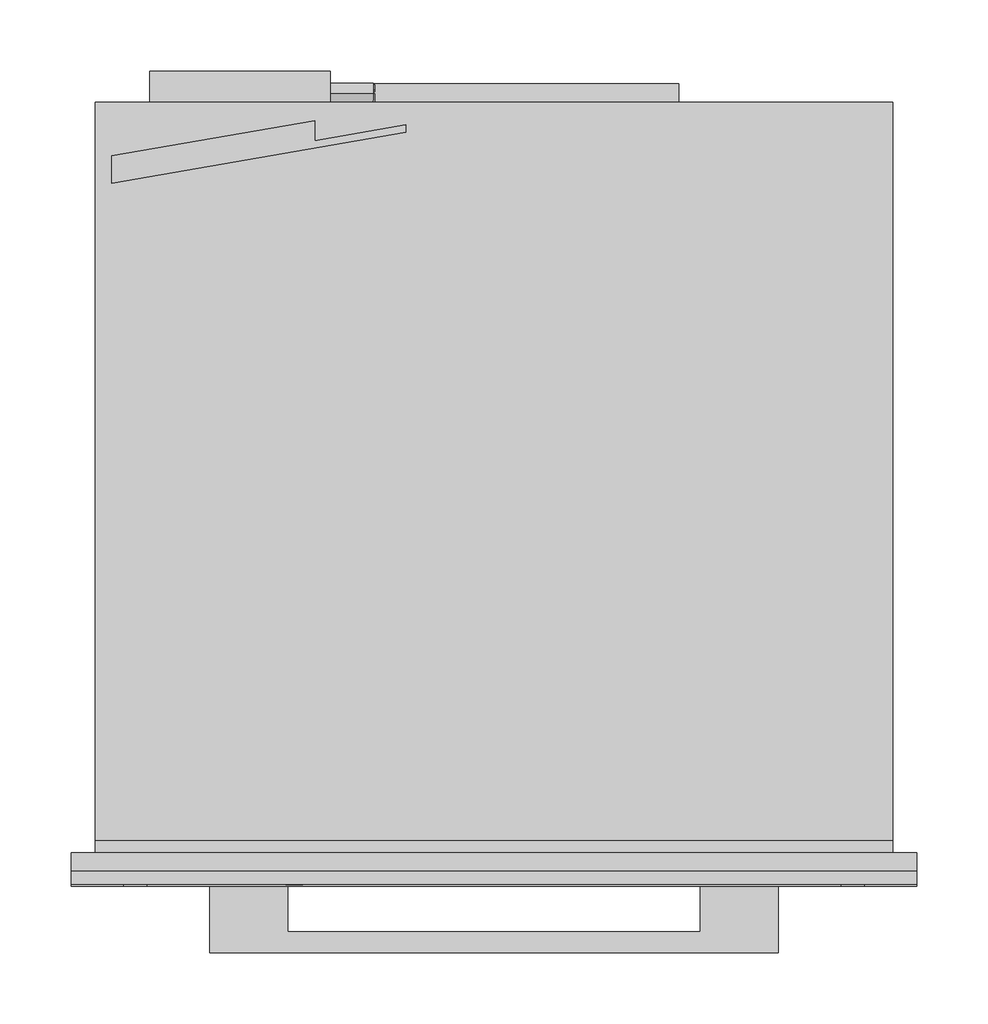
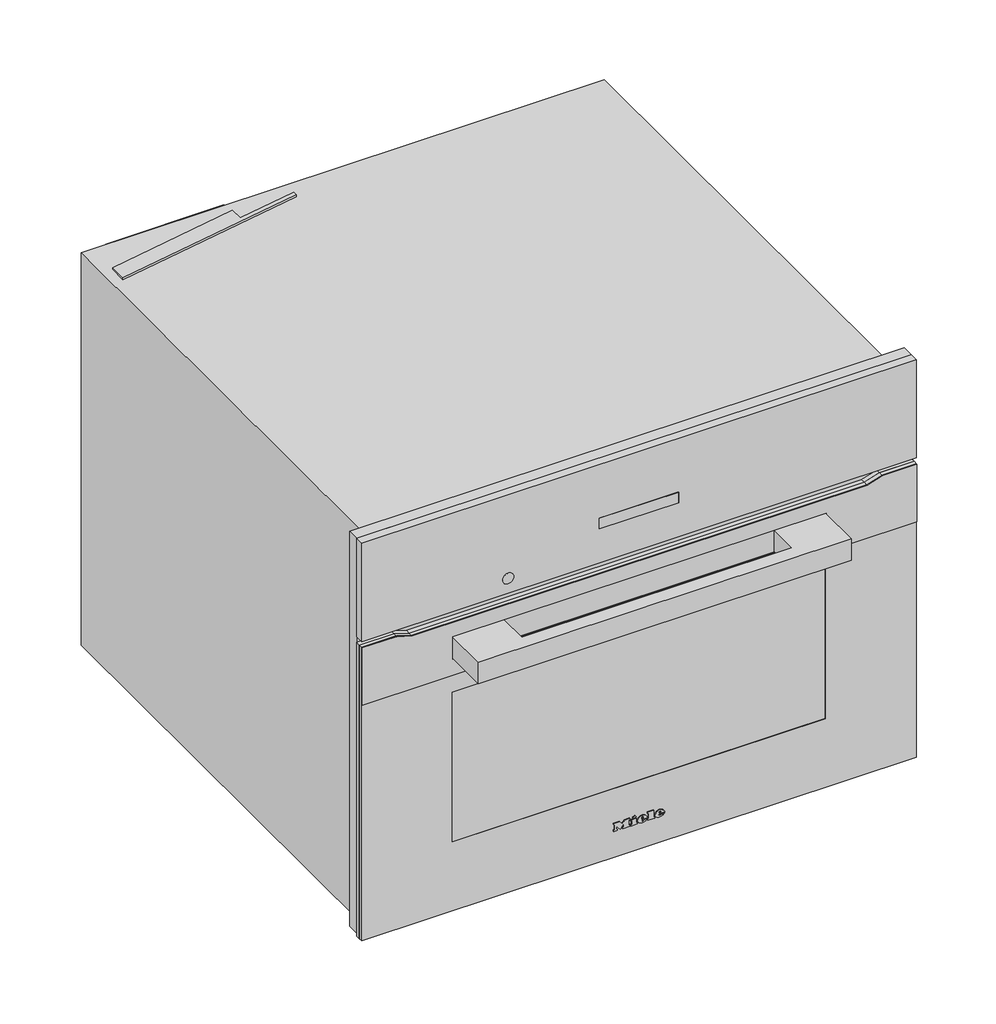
# Not in any storey: 1 proxy.
"""IFC4 building model written with IfcOpenShell, lengths in millimetres."""

import ifcopenshell
import ifcopenshell.guid

model = None  # the IFC model being written
_history = None  # IfcOwnerHistory: only IFC2X3 demands one
_inside = {}  # id of a spatial element -> (the spatial element, [elements in it])
_under = {}  # id of a project, library or spatial element -> (it, [spatial elements below it])
_declared = {}  # id of a project -> (the project, [libraries it declares])
_typed = {}  # id of a type object -> (the type object, [elements of that type])
_made_of = {}  # id of a material, layer set ... -> (it, [elements and type objects made of it])


def new_model(schema):
    """Start an empty IFC model of exactly this schema.

    Asked for "IFC4X3", IfcOpenShell would pick the latest addendum, in which some entities
    have other attributes; the version numbers below select the first issue.
    IFC2X3 requires an IfcOwnerHistory on every rooted entity: one is made here for all.
    """
    global model, _history
    if schema == "IFC4X3":
        model = ifcopenshell.file(schema_version=(4, 3, 0, 0))
    else:
        model = ifcopenshell.file(schema=schema)
    _inside.clear()
    _under.clear()
    _declared.clear()
    _typed.clear()
    _made_of.clear()
    _history = None
    if model.schema == "IFC2X3":
        org = make("IfcOrganization", Name="unknown")
        user = make(
            "IfcPersonAndOrganization",
            ThePerson=make("IfcPerson", FamilyName="unknown"),
            TheOrganization=org,
        )
        app = make(
            "IfcApplication",
            ApplicationDeveloper=org,
            Version="unknown",
            ApplicationFullName="unknown",
            ApplicationIdentifier="unknown",
        )
        _history = make(
            "IfcOwnerHistory",
            OwningUser=user,
            OwningApplication=app,
            ChangeAction="ADDED",
            CreationDate=0,
        )
    return model


def make(cls, **values):
    """One entity of the class cls with the attributes given. An attribute that is None is left unset."""
    return model.create_entity(
        cls, **{name: value for name, value in values.items() if value is not None}
    )


def rooted(cls, **values):
    """An entity with a GlobalId (a new one), such as an element, a storey or a relation."""
    return make(cls, GlobalId=ifcopenshell.guid.new(), OwnerHistory=_history, **values)


def si_unit(unit_type, name, prefix=None):
    """IfcSIUnit, for example si_unit("LENGTHUNIT", "METRE", prefix="MILLI")."""
    return make("IfcSIUnit", UnitType=unit_type, Prefix=prefix, Name=name)


def assignment(units):
    """IfcUnitAssignment: the units of a project."""
    return None if units is None else make("IfcUnitAssignment", Units=units)


def point(xyz):
    """IfcCartesianPoint."""
    return None if xyz is None else make("IfcCartesianPoint", Coordinates=xyz)


def direction(xyz):
    """IfcDirection."""
    return None if xyz is None else make("IfcDirection", DirectionRatios=xyz)


def frame(location, z_axis=None, x_axis=None):
    """IfcAxis2Placement3D, a coordinate frame: its origin and axes. An axis left out is left unset."""
    return make(
        "IfcAxis2Placement3D",
        Location=point(location),
        Axis=direction(z_axis),
        RefDirection=direction(x_axis),
    )


def frame_2d(location, x_axis=None):
    """IfcAxis2Placement2D, a coordinate frame in the plane: its origin and x axis."""
    return make(
        "IfcAxis2Placement2D", Location=point(location), RefDirection=direction(x_axis)
    )


def origin():
    """The frame at (0, 0, 0) with its axes left unset."""
    return frame((0.0, 0.0, 0.0))


def place(relative_to, where):
    """IfcLocalPlacement: puts the frame where relative to a parent placement (None: the world)."""
    return make(
        "IfcLocalPlacement", PlacementRelTo=relative_to, RelativePlacement=where
    )


def context(
    kind, dimensions, precision=None, world=None, true_north=None, identifier=None
):
    """IfcGeometricRepresentationContext, for example the 3D "Model" context."""
    return make(
        "IfcGeometricRepresentationContext",
        ContextIdentifier=identifier,
        ContextType=kind,
        CoordinateSpaceDimension=dimensions,
        Precision=precision,
        WorldCoordinateSystem=world,
        TrueNorth=true_north,
    )


def project(units=None, contexts=None):
    """IfcProject with its units and contexts."""
    return rooted(
        "IfcProject",
        Name="project",
        RepresentationContexts=contexts,
        UnitsInContext=assignment(units),
    )


def spatial(cls, under=None, at=None, **own):
    """A site, building, storey or space (cls), placed at a placement, below another one or the project."""
    s = rooted(cls, ObjectPlacement=at, **own)
    if under is not None:
        _under.setdefault(under.id(), (under, []))[1].append(s)
    return s


def polyline(points):
    """IfcPolyline through the points."""
    return make("IfcPolyline", Points=[point(p) for p in points])


def circle_curve(where, radius):
    """IfcCircle in the frame where."""
    return make("IfcCircle", Position=where, Radius=radius)


def ellipse_curve(where, semi_axis1, semi_axis2):
    """IfcEllipse in the frame where."""
    return make(
        "IfcEllipse", Position=where, SemiAxis1=semi_axis1, SemiAxis2=semi_axis2
    )


def trimmed(basis, trim1, trim2, sense, master):
    """IfcTrimmedCurve: the piece of a basis curve between two trims."""
    return make(
        "IfcTrimmedCurve",
        BasisCurve=basis,
        Trim1=trim1,
        Trim2=trim2,
        SenseAgreement=sense,
        MasterRepresentation=master,
    )


def segment(curve, same_sense, transition):
    """IfcCompositeCurveSegment."""
    return make(
        "IfcCompositeCurveSegment",
        Transition=transition,
        SameSense=same_sense,
        ParentCurve=curve,
    )


def composite_curve(segments, self_intersect=None):
    """IfcCompositeCurve: segments joined end to end."""
    return make("IfcCompositeCurve", Segments=segments, SelfIntersect=self_intersect)


def outline(outer, holes=None, kind="AREA"):
    """IfcArbitraryClosedProfileDef: a profile drawn as a closed curve; with holes, ...WithVoids."""
    if holes is None:
        return make("IfcArbitraryClosedProfileDef", ProfileType=kind, OuterCurve=outer)
    return make(
        "IfcArbitraryProfileDefWithVoids",
        ProfileType=kind,
        OuterCurve=outer,
        InnerCurves=holes,
    )


def extrude(swept, where, along, depth):
    """IfcExtrudedAreaSolid: the profile swept, set in the frame where, extruded along a direction by depth."""
    return make(
        "IfcExtrudedAreaSolid",
        SweptArea=swept,
        Position=where,
        ExtrudedDirection=direction(along),
        Depth=depth,
    )


def faces_of(points, faces, orient=None, outer=None):
    """IfcFace entities. A face is a list of loops; a loop is a list of indices into points, from 0.

    orient and outer hold one flag for each loop. By default every Orientation is true, the
    first loop of a face is its IfcFaceOuterBound and the others are IfcFaceBound.
    """
    made = []
    for i, loops in enumerate(faces):
        bounds = []
        for j, loop in enumerate(loops):
            is_outer = j == 0 if outer is None else outer[i][j]
            bounds.append(
                make(
                    "IfcFaceOuterBound" if is_outer else "IfcFaceBound",
                    Bound=make("IfcPolyLoop", Polygon=[points[k] for k in loop]),
                    Orientation=True if orient is None else orient[i][j],
                )
            )
        made.append(make("IfcFace", Bounds=bounds))
    return made


def faceted_brep(points, faces, orient=None, outer=None, voids=None):
    """IfcFacetedBrep: a solid bounded by flat faces; with voids (closed shells), ...WithVoids."""
    shared = [point(p) for p in points]
    hull = make("IfcClosedShell", CfsFaces=faces_of(shared, faces, orient, outer))
    if voids is None:
        return make("IfcFacetedBrep", Outer=hull)
    return make(
        "IfcFacetedBrepWithVoids",
        Outer=hull,
        Voids=[
            make(cls, CfsFaces=faces_of(shared, fs, o, b)) for cls, fs, o, b in voids
        ],
    )


def shape(context_of_items, identifier, shape_type, items):
    """IfcShapeRepresentation: the items that make up one representation, for example the "Body"."""
    return make(
        "IfcShapeRepresentation",
        ContextOfItems=context_of_items,
        RepresentationIdentifier=identifier,
        RepresentationType=shape_type,
        Items=items,
    )


def source(mapping_origin, context_of_items, identifier, shape_type, items):
    """IfcRepresentationMap: a shape defined once, which mapped items show again and again."""
    return make(
        "IfcRepresentationMap",
        MappingOrigin=mapping_origin,
        MappedRepresentation=shape(context_of_items, identifier, shape_type, items),
    )


def transform(
    local_origin,
    x_axis=None,
    y_axis=None,
    z_axis=None,
    scale=None,
    scale2=None,
    scale3=None,
    uniform=True,
):
    """IfcCartesianTransformationOperator3D, or its non-uniform kind. x_axis, y_axis, z_axis: its Axis1, 2, 3."""
    if uniform:
        return make(
            "IfcCartesianTransformationOperator3D",
            Axis1=direction(x_axis),
            Axis2=direction(y_axis),
            LocalOrigin=point(local_origin),
            Scale=scale,
            Axis3=direction(z_axis),
        )
    return make(
        "IfcCartesianTransformationOperator3DnonUniform",
        Axis1=direction(x_axis),
        Axis2=direction(y_axis),
        LocalOrigin=point(local_origin),
        Scale=scale,
        Axis3=direction(z_axis),
        Scale2=scale2,
        Scale3=scale3,
    )


def mapped(mapping_source, mapping_target):
    """IfcMappedItem: shows the shape of a source again, moved by a transform."""
    return make(
        "IfcMappedItem", MappingSource=mapping_source, MappingTarget=mapping_target
    )


def made_of(thing, what):
    """Note that an element or type object is made of a material, layer set ...; save() writes the relation."""
    if what is not None:
        _made_of.setdefault(what.id(), (what, []))[1].append(thing)
    return thing


def element(
    cls,
    number,
    at=None,
    inside=None,
    cuts=None,
    type_object=None,
    material=None,
    context=None,
    identifier="Body",
    shape_type=None,
    held_by="IfcProductDefinitionShape",
    body=None,
    shapes=None,
    **own,
):
    """One element of the class cls, such as IfcWall. Its Tag is "e" and its number.

    at: its placement. inside: the storey or other place that contains it. cuts: it is an
    opening in that element (IfcRelVoidsElement). A single representation is given by context,
    identifier, shape_type and body (its items); several are given by shapes. held_by: the class
    of the entity that holds the representations. save() writes the other relations.
    """
    e = rooted(cls, Tag="e%d" % number, ObjectPlacement=at, **own)
    if body is not None:
        shapes = [shape(context, identifier, shape_type, body)]
    if shapes is not None:
        e.Representation = make(held_by, Representations=shapes)
    if inside is not None:
        _inside.setdefault(inside.id(), (inside, []))[1].append(e)
    if cuts is not None:
        rooted(
            "IfcRelVoidsElement", RelatingBuildingElement=cuts, RelatedOpeningElement=e
        )
    if type_object is not None:
        _typed.setdefault(type_object.id(), (type_object, []))[1].append(e)
    return made_of(e, material)


def aggregate(whole, parts):
    """IfcRelAggregates: a whole, such as a stair, and the parts it consists of."""
    return rooted("IfcRelAggregates", RelatingObject=whole, RelatedObjects=parts)


def save(model, path):
    """Write the relations noted so far, then the file.

    IfcRelAggregates (storeys below a building ...), IfcRelContainedInSpatialStructure (elements
    in a storey), IfcRelDefinesByType, IfcRelAssociatesMaterial and IfcRelDeclares: one each for
    every whole, place, type object, material and project.
    """
    for whole, parts in _under.values():
        aggregate(whole, parts)
    for where, things in _inside.values():
        rooted(
            "IfcRelContainedInSpatialStructure",
            RelatedElements=things,
            RelatingStructure=where,
        )
    for kind, things in _typed.values():
        rooted("IfcRelDefinesByType", RelatedObjects=things, RelatingType=kind)
    for what, things in _made_of.values():
        rooted("IfcRelAssociatesMaterial", RelatedObjects=things, RelatingMaterial=what)
    for by, libraries in _declared.values():
        rooted("IfcRelDeclares", RelatingContext=by, RelatedDefinitions=libraries)
    model.write(path)


def plane_surface(at):
    """IfcPlane: the flat surface through the origin of the frame at, square to its z axis."""
    return make("IfcPlane", Position=at)


def cylinder_surface(at, radius):
    """IfcCylindricalSurface: all points at the distance radius from the z axis of the frame at."""
    return make("IfcCylindricalSurface", Position=at, Radius=radius)


def revolved_surface(curve, axis_point, axis_direction):
    """IfcSurfaceOfRevolution: the curve turned about the line through axis_point along axis_direction."""
    return make(
        "IfcSurfaceOfRevolution",
        SweptCurve=make("IfcArbitraryOpenProfileDef", ProfileType="CURVE", Curve=curve),
        AxisPosition=make("IfcAxis1Placement", Location=point(axis_point), Axis=direction(axis_direction)),
    )


def extruded_surface(curve, direction_of_extrusion, depth):
    """IfcSurfaceOfLinearExtrusion: the curve pushed along a direction by depth."""
    return make(
        "IfcSurfaceOfLinearExtrusion",
        SweptCurve=make("IfcArbitraryOpenProfileDef", ProfileType="CURVE", Curve=curve),
        ExtrudedDirection=direction(direction_of_extrusion),
        Depth=depth,
    )


def advanced_brep(points, edges, surfaces, faces):
    """IfcAdvancedBrep: a solid bounded by faces that lie on surfaces and meet in shared edges.

    An edge is (start, end): straight between two places in points (the first is 0);
    or (start, end, curve); or (start, end, curve, False) where it runs against its curve.
    A face is (place in surfaces, loops), or (place, loops, False) where it looks against
    its surface's normal. A loop lists edges by number (the first is 1), with a minus sign
    where the edge is run from its end to its start. The first loop is the outer one.
    """
    corners = [point(p) for p in points]
    vertices = [make("IfcVertexPoint", VertexGeometry=c) for c in corners]
    made = []
    for start, end, *more in edges:
        made.append(
            make(
                "IfcEdgeCurve",
                EdgeStart=vertices[start],
                EdgeEnd=vertices[end],
                EdgeGeometry=more[0] if more else make("IfcPolyline", Points=[corners[start], corners[end]]),
                SameSense=more[1] if len(more) > 1 else True,
            )
        )
    hull = []
    for where, loops, *sense in faces:
        bounds = []
        for j, loop in enumerate(loops):
            ring = [make("IfcOrientedEdge", EdgeElement=made[abs(k) - 1], Orientation=k > 0) for k in loop]
            bounds.append(
                make(
                    "IfcFaceOuterBound" if j == 0 else "IfcFaceBound",
                    Bound=make("IfcEdgeLoop", EdgeList=ring),
                    Orientation=True,
                )
            )
        hull.append(make("IfcAdvancedFace", Bounds=bounds, FaceSurface=surfaces[where], SameSense=sense[0] if sense else True))
    return make("IfcAdvancedBrep", Outer=make("IfcClosedShell", CfsFaces=hull))


def specialty_equipment_5c6efe2b(model_context):
    return source(origin(), model_context, "Body", "SolidModel", [
        advanced_brep(
        [(21.28, -23.0, 36.133), (21.28, -23.0, 37.042), (27.301, -23.0, 37.042), (16.825, -23.0, 37.042), (19.3, -23.0, 34.0), (27.148, -23.0, 36.133), (24.43, -23.0, 36.133), (22.288, -23.0, 35.125), (21.28, -23.0, 38.194), (21.28, -23.0, 39.175), (22.819, -23.0, 39.175), (22.819, -23.0, 38.194), (21.28, -22.0, 36.133), (22.288, -22.0, 35.125), (24.43, -22.0, 36.133), (27.148, -22.0, 36.133), (19.3, -22.0, 34.0), (16.825, -22.0, 37.042), (27.301, -22.0, 37.042), (21.28, -22.0, 37.042), (21.28, -22.0, 38.194), (22.819, -22.0, 38.194), (22.819, -22.0, 39.175), (21.28, -22.0, 39.175)],
        [
            (0, 1),
            (1, 2),
            (2, 3, ellipse_curve(frame((22.063, -23.0, 37.042), z_axis=(0.0, -1.0, 0.0), x_axis=(-1.0, 0.0, 0.0)), 5.238, 4.329)),
            (3, 4, circle_curve(frame((20.3080491, -23.0, 37.348), z_axis=(0.0, -1.0, 0.0), x_axis=(0.0, 0.0, -1.0)), 3.4964649)),
            (4, 5, circle_curve(frame((21.9581428, -23.0, 39.724), z_axis=(0.0, -1.0, 0.0), x_axis=(0.0, 0.0, -1.0)), 6.3110933)),
            (5, 6),
            (6, 7, circle_curve(frame((22.7279412, -23.0, 36.97), z_axis=(0.0, 1.0, 0.0), x_axis=(0.0, 0.0, -1.0)), 1.896727)),
            (7, 0, circle_curve(frame((22.288, -23.0, 36.133), z_axis=(0.0, 1.0, 0.0), x_axis=(0.0, 0.0, -1.0)), 1.008)),
            (8, 9),
            (9, 10, circle_curve(frame((22.0495, -23.0, 39.175), z_axis=(0.0, 1.0, 0.0), x_axis=(0.0, 0.0, -1.0)), 0.7695)),
            (10, 11),
            (11, 8),
            (12, 13, circle_curve(frame((22.288, -22.0, 36.133), z_axis=(0.0, -1.0, 0.0), x_axis=(0.0, 0.0, -1.0)), 1.008)),
            (13, 14, circle_curve(frame((22.7279412, -22.0, 36.97), z_axis=(0.0, -1.0, 0.0), x_axis=(0.0, 0.0, -1.0)), 1.896727)),
            (14, 15),
            (15, 16, circle_curve(frame((21.9581428, -22.0, 39.724), z_axis=(0.0, 1.0, 0.0), x_axis=(0.0, 0.0, -1.0)), 6.3110933)),
            (16, 17, circle_curve(frame((20.3080491, -22.0, 37.348), z_axis=(0.0, 1.0, 0.0), x_axis=(0.0, 0.0, -1.0)), 3.4964649)),
            (17, 18, ellipse_curve(frame((22.063, -22.0, 37.042), z_axis=(0.0, 1.0, 0.0), x_axis=(-1.0, 0.0, 0.0)), 5.238, 4.329)),
            (18, 19),
            (19, 12),
            (20, 21),
            (21, 22),
            (22, 23, circle_curve(frame((22.0495, -22.0, 39.175), z_axis=(0.0, -1.0, 0.0), x_axis=(0.0, 0.0, -1.0)), 0.7695)),
            (23, 20),
            (0, 12),
            (19, 1),
            (18, 2),
            (5, 15),
            (14, 6),
            (17, 3),
            (13, 7),
            (16, 4),
            (8, 20),
            (23, 9),
            (22, 10),
            (21, 11),
        ],
        [
            plane_surface(frame((21.28, -23.0, 37.042), z_axis=(0.0, -1.0, 0.0), x_axis=(0.0, 0.0, 1.0))),
            plane_surface(frame((21.28, -22.0, 37.042), z_axis=(0.0, 1.0, 0.0), x_axis=(0.0, 0.0, -1.0))),
            plane_surface(frame((21.28, -23.0, 36.133), z_axis=(1.0, 0.0, 0.0), x_axis=(0.0, 1.0, 0.0))),
            plane_surface(frame((21.28, -23.0, 37.042), z_axis=(0.0, 0.0, -1.0), x_axis=(0.0, 1.0, 0.0))),
            plane_surface(frame((27.148, -23.0, 36.133), z_axis=(0.0, 0.0, 1.0), x_axis=(0.0, 1.0, 0.0))),
            extruded_surface(trimmed(ellipse_curve(frame((22.063, -21.0, 37.042), z_axis=(0.0, -1.0, 0.0), x_axis=(-1.0, 0.0, 0.0)), 5.238, 4.329), [point((27.301, -21.0, 37.042))], [point((16.825, -21.0, 37.042))], True, "CARTESIAN"), (0.0, -1.0, 0.0), 1.0),
            revolved_surface(polyline([(22.7279412, -22.0, 35.073273), (22.7279412, -23.0, 35.073273)]), (22.7279412, -22.0, 36.97), (0.0, 1.0, 0.0)),
            revolved_surface(polyline([(22.288, -22.0, 35.125), (22.288, -23.0, 35.125)]), (22.288, -22.0, 36.133), (0.0, 1.0, 0.0)),
            cylinder_surface(frame((20.3080491, -22.0, 37.348), z_axis=(0.0, -1.0, 0.0), x_axis=(0.0, 0.0, -1.0)), 3.4964649),
            cylinder_surface(frame((21.9581428, -22.0, 39.724), z_axis=(0.0, -1.0, 0.0), x_axis=(0.0, 0.0, -1.0)), 6.3110933),
            plane_surface(frame((21.28, -23.0, 38.194), z_axis=(1.0, 0.0, 0.0), x_axis=(0.0, 1.0, 0.0))),
            revolved_surface(polyline([(22.0495, -22.0, 38.405499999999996), (22.0495, -23.0, 38.405499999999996)]), (22.0495, -22.0, 39.175), (0.0, 1.0, 0.0)),
            plane_surface(frame((22.819, -23.0, 39.175), z_axis=(-1.0, 0.0, 0.0), x_axis=(0.0, 1.0, 0.0))),
            plane_surface(frame((22.819, -23.0, 38.194), z_axis=(0.0, 0.0, 1.0), x_axis=(0.0, 1.0, 0.0))),
        ],
        [
            (0, [[1, 2, 3, 4, 5, 6, 7, 8], [9, 10, 11, 12]]),
            (1, [[13, 14, 15, 16, 17, 18, 19, 20], [21, 22, 23, 24]]),
            (2, [[-1, 25, -20, 26]]),
            (3, [[-2, -26, -19, 27]]),
            (4, [[-6, 28, -15, 29]]),
            (5, [[-3, -27, -18, 30]]),
            (6, [[-7, -29, -14, 31]]),
            (7, [[-8, -31, -13, -25]]),
            (8, [[-4, -30, -17, 32]]),
            (9, [[-5, -32, -16, -28]]),
            (10, [[-9, 33, -24, 34]]),
            (11, [[-10, -34, -23, 35]]),
            (12, [[-11, -35, -22, 36]]),
            (13, [[-12, -36, -21, -33]]),
        ],
    ),
        advanced_brep(
        [(2.497, -23.0, 36.133), (2.497, -23.0, 37.042), (8.518, -23.0, 37.042), (-1.958, -23.0, 37.042), (0.517, -23.0, 34.0), (8.365, -23.0, 36.133), (5.647, -23.0, 36.133), (3.505, -23.0, 35.125), (2.497, -23.0, 38.194), (2.497, -23.0, 39.175), (4.036, -23.0, 39.175), (4.036, -23.0, 38.194), (2.497, -22.0, 36.133), (3.505, -22.0, 35.125), (5.647, -22.0, 36.133), (8.365, -22.0, 36.133), (0.517, -22.0, 34.0), (-1.958, -22.0, 37.042), (8.518, -22.0, 37.042), (2.497, -22.0, 37.042), (2.497, -22.0, 38.194), (4.036, -22.0, 38.194), (4.036, -22.0, 39.175), (2.497, -22.0, 39.175)],
        [
            (0, 1),
            (1, 2),
            (2, 3, ellipse_curve(frame((3.28, -23.0, 37.042), z_axis=(0.0, -1.0, 0.0), x_axis=(-1.0, 0.0, 0.0)), 5.238, 4.329)),
            (3, 4, circle_curve(frame((1.5250491, -23.0, 37.348), z_axis=(0.0, -1.0, 0.0), x_axis=(0.0, 0.0, -1.0)), 3.4964649)),
            (4, 5, circle_curve(frame((3.1751428, -23.0, 39.724), z_axis=(0.0, -1.0, 0.0), x_axis=(0.0, 0.0, -1.0)), 6.3110933)),
            (5, 6),
            (6, 7, circle_curve(frame((3.9449412, -23.0, 36.97), z_axis=(0.0, 1.0, 0.0), x_axis=(0.0, 0.0, -1.0)), 1.896727)),
            (7, 0, circle_curve(frame((3.505, -23.0, 36.133), z_axis=(0.0, 1.0, 0.0), x_axis=(0.0, 0.0, -1.0)), 1.008)),
            (8, 9),
            (9, 10, circle_curve(frame((3.2665, -23.0, 39.175), z_axis=(0.0, 1.0, 0.0), x_axis=(0.0, 0.0, -1.0)), 0.7695)),
            (10, 11),
            (11, 8),
            (12, 13, circle_curve(frame((3.505, -22.0, 36.133), z_axis=(0.0, -1.0, 0.0), x_axis=(0.0, 0.0, -1.0)), 1.008)),
            (13, 14, circle_curve(frame((3.9449412, -22.0, 36.97), z_axis=(0.0, -1.0, 0.0), x_axis=(0.0, 0.0, -1.0)), 1.896727)),
            (14, 15),
            (15, 16, circle_curve(frame((3.1751428, -22.0, 39.724), z_axis=(0.0, 1.0, 0.0), x_axis=(0.0, 0.0, -1.0)), 6.3110933)),
            (16, 17, circle_curve(frame((1.5250491, -22.0, 37.348), z_axis=(0.0, 1.0, 0.0), x_axis=(0.0, 0.0, -1.0)), 3.4964649)),
            (17, 18, ellipse_curve(frame((3.28, -22.0, 37.042), z_axis=(0.0, 1.0, 0.0), x_axis=(-1.0, 0.0, 0.0)), 5.238, 4.329)),
            (18, 19),
            (19, 12),
            (20, 21),
            (21, 22),
            (22, 23, circle_curve(frame((3.2665, -22.0, 39.175), z_axis=(0.0, -1.0, 0.0), x_axis=(0.0, 0.0, -1.0)), 0.7695)),
            (23, 20),
            (0, 12),
            (19, 1),
            (18, 2),
            (5, 15),
            (14, 6),
            (17, 3),
            (13, 7),
            (16, 4),
            (8, 20),
            (23, 9),
            (22, 10),
            (21, 11),
        ],
        [
            plane_surface(frame((2.497, -23.0, 37.042), z_axis=(0.0, -1.0, 0.0), x_axis=(0.0, 0.0, 1.0))),
            plane_surface(frame((2.497, -22.0, 37.042), z_axis=(0.0, 1.0, 0.0), x_axis=(0.0, 0.0, -1.0))),
            plane_surface(frame((2.497, -23.0, 36.133), z_axis=(1.0, 0.0, 0.0), x_axis=(0.0, 1.0, 0.0))),
            plane_surface(frame((2.497, -23.0, 37.042), z_axis=(0.0, 0.0, -1.0), x_axis=(0.0, 1.0, 0.0))),
            plane_surface(frame((8.365, -23.0, 36.133), z_axis=(0.0, 0.0, 1.0), x_axis=(0.0, 1.0, 0.0))),
            extruded_surface(trimmed(ellipse_curve(frame((3.28, -21.0, 37.042), z_axis=(0.0, -1.0, 0.0), x_axis=(-1.0, 0.0, 0.0)), 5.238, 4.329), [point((8.518, -21.0, 37.042))], [point((-1.958, -21.0, 37.042))], True, "CARTESIAN"), (0.0, -1.0, 0.0), 1.0),
            revolved_surface(polyline([(3.9449412, -22.0, 35.073273), (3.9449412, -23.0, 35.073273)]), (3.9449412, -22.0, 36.97), (0.0, 1.0, 0.0)),
            revolved_surface(polyline([(3.505, -22.0, 35.125), (3.505, -23.0, 35.125)]), (3.505, -22.0, 36.133), (0.0, 1.0, 0.0)),
            cylinder_surface(frame((1.5250491, -22.0, 37.348), z_axis=(0.0, -1.0, 0.0), x_axis=(0.0, 0.0, -1.0)), 3.4964649),
            cylinder_surface(frame((3.1751428, -22.0, 39.724), z_axis=(0.0, -1.0, 0.0), x_axis=(0.0, 0.0, -1.0)), 6.3110933),
            plane_surface(frame((2.497, -23.0, 38.194), z_axis=(1.0, 0.0, 0.0), x_axis=(0.0, 1.0, 0.0))),
            revolved_surface(polyline([(3.2665, -22.0, 38.405499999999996), (3.2665, -23.0, 38.405499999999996)]), (3.2665, -22.0, 39.175), (0.0, 1.0, 0.0)),
            plane_surface(frame((4.036, -23.0, 39.175), z_axis=(-1.0, 0.0, 0.0), x_axis=(0.0, 1.0, 0.0))),
            plane_surface(frame((4.036, -23.0, 38.194), z_axis=(0.0, 0.0, 1.0), x_axis=(0.0, 1.0, 0.0))),
        ],
        [
            (0, [[1, 2, 3, 4, 5, 6, 7, 8], [9, 10, 11, 12]]),
            (1, [[13, 14, 15, 16, 17, 18, 19, 20], [21, 22, 23, 24]]),
            (2, [[-1, 25, -20, 26]]),
            (3, [[-2, -26, -19, 27]]),
            (4, [[-6, 28, -15, 29]]),
            (5, [[-3, -27, -18, 30]]),
            (6, [[-7, -29, -14, 31]]),
            (7, [[-8, -31, -13, -25]]),
            (8, [[-4, -30, -17, 32]]),
            (9, [[-5, -32, -16, -28]]),
            (10, [[-9, 33, -24, 34]]),
            (11, [[-10, -34, -23, 35]]),
            (12, [[-11, -35, -22, 36]]),
            (13, [[-12, -36, -21, -33]]),
        ],
    ),
        extrude(outline(polyline([(42.469, -7.34), (41.011, -6.656), (42.433, -3.605), (43.891, -4.28), (42.469, -7.34)])), frame((0.0, -23.0, 0.0), z_axis=(0.0, 1.0, 0.0), x_axis=(0.0, 0.0, 1.0)), (0.0, 0.0, 1.0), 1.0),
        extrude(outline(polyline([(40.813, -9.563), (39.202, -9.563), (39.202, -8.492), (35.512, -8.492), (35.512, -9.563), (34.0, -9.563), (34.0, -2.462), (35.512, -2.462), (35.512, -3.506), (40.813, -3.506), (40.813, -9.563)])), frame((0.0, -23.0, 0.0), z_axis=(0.0, 1.0, 0.0), x_axis=(0.0, 0.0, 1.0)), (0.0, 0.0, 1.0), 1.0),
        extrude(outline(polyline([(41.533, 9.022), (41.533, 10.102), (35.512, 10.102), (35.512, 9.022), (34.0, 9.022), (34.0, 16.321), (35.512, 16.321), (35.512, 15.214), (43.0, 15.214), (43.0, 9.022), (41.533, 9.022)])), frame((0.0, -23.0, 0.0), z_axis=(0.0, 1.0, 0.0), x_axis=(0.0, 0.0, 1.0)), (0.0, 0.0, 1.0), 1.0),
        extrude(outline(polyline([(41.533, -27.5), (41.533, -26.411), (35.512, -26.411), (35.512, -27.5), (34.0, -27.5), (34.0, -23.54), (35.512, -23.54), (35.512, -24.62), (39.3341247, -24.62), (34.0, -20.597), (39.4402223, -16.556), (35.512, -16.556), (35.512, -17.663), (34.0, -17.663), (34.0, -10.481), (35.512, -10.481), (35.512, -11.624), (41.533, -11.624), (41.533, -10.481), (43.0, -10.481), (43.0, -15.962), (39.625, -18.59), (43.0, -21.227), (43.0, -27.5), (41.533, -27.5)])), frame((0.0, -23.0, 0.0), z_axis=(0.0, 1.0, 0.0), x_axis=(0.0, 0.0, 1.0)), (0.0, 0.0, 1.0), 1.0),
        extrude(outline(polyline([(-200.0, -70.3), (-200.0, -22.0), (-145.0, -22.0), (-145.0, -55.3), (145.0, -55.3), (145.0, -22.0), (200.0, -22.0), (200.0, -70.3), (-200.0, -70.3)])), frame((0.0, 0.0, 291.0), z_axis=(0.0, 0.0, 1.0), x_axis=(1.0, 0.0, 0.0)), (0.0, 0.0, 1.0), 24.0),
        extrude(outline(polyline([(337.0, -297.5), (4.0, -297.5), (4.0, 297.5), (337.0, 297.5), (337.0, 260.3542631), (332.0, 244.0), (332.0, -244.0), (337.0, -260.3542631), (337.0, -297.5)]), holes=[polyline([(252.0, 200.0), (82.0, 200.0), (82.0, -200.0), (252.0, -200.0), (252.0, 200.0)])]), frame((0.0, -22.0, 0.0), z_axis=(0.0, 1.0, 0.0), x_axis=(0.0, 0.0, 1.0)), (0.0, 0.0, 1.0), 4.0),
        extrude(outline(polyline([(337.0, -297.5), (272.0, -297.5), (272.0, 297.5), (337.0, 297.5), (337.0, 260.3542631), (332.0, 244.0), (332.0, -244.0), (337.0, -260.3542631), (337.0, -297.5)]), holes=[polyline([(315.5, -200.5), (315.5, 200.5), (290.5, 200.5), (290.5, -200.5), (315.5, -200.5)])]), frame((0.0, -23.3, 0.0), z_axis=(0.0, 1.0, 0.0), x_axis=(0.0, 0.0, 1.0)), (0.0, 0.0, 1.0), 1.3),
        extrude(outline(polyline([(337.0, -297.5), (4.0, -297.5), (4.0, 297.5), (337.0, 297.5), (337.0, 260.3542631), (332.0, 244.0), (332.0, -244.0), (337.0, -260.3542631), (337.0, -297.5)])), frame((0.0, -18.0, 0.0), z_axis=(0.0, 1.0, 0.0), x_axis=(0.0, 0.0, 1.0)), (0.0, 0.0, 1.0), 5.0),
        extrude(outline(polyline([(-200.0, -18.0), (200.0, -18.0), (200.0, -22.0), (-200.0, -22.0), (-200.0, -18.0)])), frame((0.0, 0.0, 82.0), z_axis=(0.0, 0.0, 1.0), x_axis=(1.0, 0.0, 0.0)), (0.0, 0.0, 1.0), 170.0),
        extrude(outline(polyline([(-42.5, -21.0), (42.5, -21.0), (42.5, -22.0), (-42.5, -22.0), (-42.5, -21.0)])), frame((0.0, 0.0, 382.0), z_axis=(0.0, 0.0, 1.0), x_axis=(1.0, 0.0, 0.0)), (0.0, 0.0, 1.0), 12.0),
        faceted_brep([(297.5, -22.0, 455.0), (-297.5, -22.0, 455.0), (-297.5, -22.0, 343.5), (297.5, -22.0, 343.5), (42.5, -22.0, 394.0), (42.5, -22.0, 382.0), (-42.5, -22.0, 382.0), (-42.5, -22.0, 394.0), (297.5, -13.0, 455.0), (297.5, -13.0, 343.5), (-297.5, -13.0, 343.5), (-297.5, -13.0, 455.0), (42.5, -21.0, 394.0), (-42.5, -21.0, 394.0), (-42.5, -21.0, 382.0), (42.5, -21.0, 382.0)], [[[0, 1, 2, 3], [4, 5, 6, 7]], [[8, 9, 10, 11]], [[1, 0, 8, 11]], [[2, 1, 11, 10]], [[3, 2, 10, 9]], [[0, 3, 9, 8]], [[12, 13, 14, 15]], [[12, 15, 5, 4]], [[15, 14, 6, 5]], [[14, 13, 7, 6]], [[13, 12, 4, 7]]]),
        extrude(outline(composite_curve([segment(trimmed(circle_curve(frame_2d((360.5, -140.5745637)), 6.0), [point((360.5, -146.5745637))], [point((360.5, -134.5745637))], False, "CARTESIAN"), True, "CONTINUOUS"), segment(trimmed(circle_curve(frame_2d((360.5, -140.5745637)), 6.0), [point((360.5, -134.5745637))], [point((360.5, -146.5745637))], False, "CARTESIAN"), True, "CONTINUOUS")], self_intersect=False)), frame((0.0, -22.5, 0.0), z_axis=(0.0, 1.0, 0.0), x_axis=(0.0, 0.0, 1.0)), (0.0, 0.0, 1.0), 1.0),
        extrude(outline(polyline([(-269.0, 490.2851942), (-126.0, 515.1547594), (-126.0, 500.9446163), (-62.0, 512.0750511), (-62.0, 507.0), (-269.0, 471.0), (-269.0, 490.2851942)])), frame((0.0, 0.0, 445.0), z_axis=(0.0, 0.0, 1.0), x_axis=(1.0, 0.0, 0.0)), (0.0, 0.0, 1.0), 2.0),
        extrude(outline(polyline([(528.134837, 358.3256163), (533.9911721, 358.3256163), (533.9911721, 357.3256163), (529.134837, 357.3256163), (529.134837, 353.8256163), (532.0849866, 353.8256163), (532.0849866, 352.8256163), (529.134837, 352.8256163), (529.134837, 349.3256163), (533.9911721, 349.3256163), (533.9911721, 348.3256163), (528.134837, 348.3256163), (528.134837, 358.3256163)])), frame((-85.0, 0.0, 0.0), z_axis=(1.0, 0.0, 0.0), x_axis=(0.0, 1.0, 0.0)), (0.0, 0.0, 1.0), 1.0),
        extrude(outline(polyline([(535.4911721, 348.3256163), (535.4911721, 358.3256163), (536.5959622, 358.3256163), (536.5959622, 349.3256163), (540.4911721, 349.3256163), (540.4911721, 348.3256163), (535.4911721, 348.3256163)])), frame((-85.0, 0.0, 0.0), z_axis=(1.0, 0.0, 0.0), x_axis=(0.0, 1.0, 0.0)), (0.0, 0.0, 1.0), 1.0),
        extrude(outline(composite_curve([segment(trimmed(circle_curve(frame_2d((534.0, 353.0)), 7.5), [point((534.0, 345.5))], [point((534.0, 360.5))], False, "CARTESIAN"), True, "CONTINUOUS"), segment(trimmed(circle_curve(frame_2d((534.0, 353.0)), 7.5), [point((534.0, 360.5))], [point((534.0, 345.5))], False, "CARTESIAN"), True, "CONTINUOUS")], self_intersect=False)), frame((-115.0, 0.0, 0.0), z_axis=(1.0, 0.0, 0.0), x_axis=(0.0, 1.0, 0.0)), (0.0, 0.0, 1.0), 30.0),
        extrude(outline(polyline([(-115.0, 528.0), (-242.0, 528.0), (-242.0, 550.0), (-115.0, 550.0), (-115.0, 528.0)])), frame((0.0, 0.0, 325.0), z_axis=(0.0, 0.0, 1.0), x_axis=(1.0, 0.0, 0.0)), (0.0, 0.0, 1.0), 103.0),
        faceted_brep([(272.5, 17.0, 344.0), (-272.5, 17.0, 344.0), (-272.5, 17.0, 7.0), (272.5, 17.0, 7.0), (-230.0, 17.0, 270.0), (230.0, 17.0, 270.0), (230.0, 17.0, 60.0), (-230.0, 17.0, 60.0), (272.5, 0.0, 344.0), (-272.5, 0.0, 344.0), (-272.5, 0.0, 7.0), (272.5, 0.0, 7.0), (280.5, 0.0, 0.0), (280.5, 528.0, 0.0), (280.5, 528.0, 445.0), (280.5, 9.0, 445.0), (280.5, 9.0, 440.0), (280.5, 0.0, 440.0), (-280.5, 9.0, 445.0), (-280.5, 528.0, 445.0), (-280.5, 528.0, 0.0), (-280.5, 0.0, 0.0), (-280.5, 0.0, 440.0), (-280.5, 9.0, 440.0), (230.0, 412.0, 270.0), (-230.0, 412.0, 270.0), (-230.0, 412.0, 60.0), (230.0, 412.0, 60.0)], [[[0, 1, 2, 3], [4, 5, 6, 7]], [[1, 0, 8, 9]], [[2, 1, 9, 10]], [[0, 3, 11, 8]], [[12, 13, 14, 15, 16, 17]], [[18, 19, 20, 21, 22, 23]], [[13, 12, 21, 20]], [[14, 13, 20, 19]], [[15, 14, 19, 18]], [[21, 12, 17, 22], [9, 8, 11, 10]], [[24, 25, 26, 27]], [[25, 24, 5, 4]], [[26, 25, 4, 7]], [[27, 26, 7, 6]], [[24, 27, 6, 5]], [[3, 2, 10, 11]], [[16, 23, 22, 17]], [[23, 16, 15, 18]]]),
        extrude(outline(polyline([(130.0, 528.0), (-130.0, 528.0), (-130.0, 541.0), (130.0, 541.0), (130.0, 528.0)])), frame((0.0, 0.0, 36.0), z_axis=(0.0, 0.0, 1.0), x_axis=(1.0, 0.0, 0.0)), (0.0, 0.0, 1.0), 260.0),
        extrude(outline(polyline([(7.0, 297.5), (455.0, 297.5), (455.0, -297.5), (7.0, -297.5), (7.0, -272.5), (344.0, -272.5), (344.0, 272.5), (7.0, 272.5), (7.0, 297.5)])), frame((0.0, -13.0, 0.0), z_axis=(0.0, 1.0, 0.0), x_axis=(0.0, 0.0, 1.0)), (0.0, 0.0, 1.0), 13.0),
    ])


model = new_model("IFC4")

# Units and contexts
model_context = context("Model", 3, world=origin())
ifc_project = project(units=[si_unit("LENGTHUNIT", "METRE", prefix="MILLI")], contexts=[model_context])

# Site, building
site = spatial("IfcSite", under=ifc_project)
building = spatial("IfcBuilding", under=site)

# Proxy
placement = place(None, origin())
specialty_equipment_shape = specialty_equipment_5c6efe2b(model_context)
element("IfcBuildingElementProxy", 1, Name="11804510_USA_H7240BM_EDST-CLST : 22724046_USA_11804510_H7240BM_EDST-CLST", ObjectType="11804510_USA_H7240BM_EDST-CLST : 22724046_USA_11804510_H7240BM_EDST-CLST", at=placement, inside=building, context=model_context, shape_type="MappedRepresentation", body=[
    mapped(specialty_equipment_shape, transform((0.0, 0.0, 0.0), x_axis=(1.0, 0.0, 0.0), y_axis=(0.0, 1.0, 0.0), z_axis=(0.0, 0.0, 1.0))),
])

save(model, "model.ifc")
